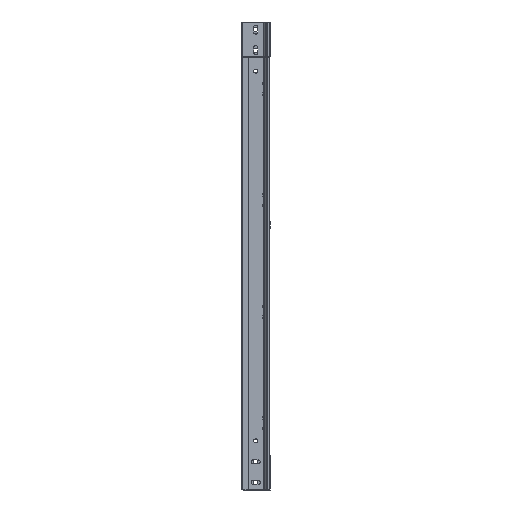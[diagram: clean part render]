
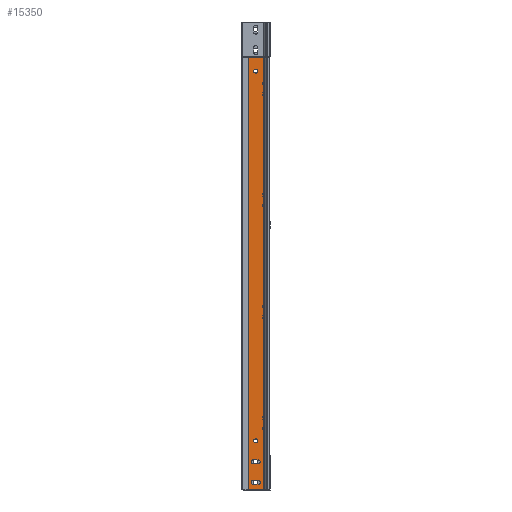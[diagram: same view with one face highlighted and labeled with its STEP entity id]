
A CAD part, left-side view. The second image highlights one B-rep face of the part: STEP entity #15350.
In plain terms, the highlighted planar face has unit normal (-1, 0, 0).
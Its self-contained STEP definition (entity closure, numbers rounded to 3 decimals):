
#150 = VERTEX_POINT ( 'NONE', #12616 ) ;
#570 = CARTESIAN_POINT ( 'NONE',  ( 0., 48.466, 970. ) ) ;
#755 = VERTEX_POINT ( 'NONE', #12154 ) ;
#817 = EDGE_CURVE ( 'NONE', #15494, #2097, #16025, .T. ) ;
#865 = FACE_BOUND ( 'NONE', #12500, .T. ) ;
#946 = ORIENTED_EDGE ( 'NONE', *, *, #16884, .F. ) ;
#978 = LINE ( 'NONE', #11442, #4942 ) ;
#1201 = DIRECTION ( 'NONE',  ( -1., 0., 0. ) ) ;
#1885 = ORIENTED_EDGE ( 'NONE', *, *, #8966, .T. ) ;
#1893 = ORIENTED_EDGE ( 'NONE', *, *, #8275, .F. ) ;
#1919 = AXIS2_PLACEMENT_3D ( 'NONE', #10100, #2630, #3828 ) ;
#2023 = CARTESIAN_POINT ( 'NONE',  ( 0., 30.3, 25.5 ) ) ;
#2097 = VERTEX_POINT ( 'NONE', #3073 ) ;
#2524 = LINE ( 'NONE', #15664, #5587 ) ;
#2630 = DIRECTION ( 'NONE',  ( -1., 0., 0. ) ) ;
#2643 = VECTOR ( 'NONE', #9492, 1000. ) ;
#2743 = VERTEX_POINT ( 'NONE', #9097 ) ;
#3057 = VERTEX_POINT ( 'NONE', #16976 ) ;
#3073 = CARTESIAN_POINT ( 'NONE',  ( 0., 35.8, 911.5 ) ) ;
#3116 = AXIS2_PLACEMENT_3D ( 'NONE', #11957, #4416, #13600 ) ;
#3278 = CIRCLE ( 'NONE', #3293, 4.5 ) ;
#3293 = AXIS2_PLACEMENT_3D ( 'NONE', #13301, #5402, #10638 ) ;
#3317 = AXIS2_PLACEMENT_3D ( 'NONE', #10745, #15982, #4227 ) ;
#3454 = EDGE_CURVE ( 'NONE', #2743, #3057, #10690, .T. ) ;
#3734 = DIRECTION ( 'NONE',  ( 0., 0., 1. ) ) ;
#3735 = CARTESIAN_POINT ( 'NONE',  ( 0., 35.8, 902.5 ) ) ;
#3828 = DIRECTION ( 'NONE',  ( 0., 0., -1. ) ) ;
#4227 = DIRECTION ( 'NONE',  ( 0., 0., 1. ) ) ;
#4240 = VERTEX_POINT ( 'NONE', #14229 ) ;
#4266 = LINE ( 'NONE', #5293, #2643 ) ;
#4358 = VERTEX_POINT ( 'NONE', #5660 ) ;
#4416 = DIRECTION ( 'NONE',  ( -1., 0., 0. ) ) ;
#4462 = LINE ( 'NONE', #3735, #6299 ) ;
#4919 = EDGE_CURVE ( 'NONE', #16381, #2743, #2524, .T. ) ;
#4940 = CARTESIAN_POINT ( 'NONE',  ( 0., 24.8, 957.5 ) ) ;
#4942 = VECTOR ( 'NONE', #5955, 1000. ) ;
#5145 = LINE ( 'NONE', #7565, #7666 ) ;
#5147 = DIRECTION ( 'NONE',  ( 0., 0., 1. ) ) ;
#5187 = DIRECTION ( 'NONE',  ( -1., 0., 0. ) ) ;
#5217 = CARTESIAN_POINT ( 'NONE',  ( 0., 35.8, 948.5 ) ) ;
#5293 = CARTESIAN_POINT ( 'NONE',  ( 0., 0.5, 970. ) ) ;
#5340 = DIRECTION ( 'NONE',  ( -1., 0., 0. ) ) ;
#5402 = DIRECTION ( 'NONE',  ( -1., 0., 0. ) ) ;
#5587 = VECTOR ( 'NONE', #16940, 1000. ) ;
#5660 = CARTESIAN_POINT ( 'NONE',  ( 0., 35.8, 902.5 ) ) ;
#5694 = VERTEX_POINT ( 'NONE', #2023 ) ;
#5794 = ORIENTED_EDGE ( 'NONE', *, *, #8902, .T. ) ;
#5812 = EDGE_CURVE ( 'NONE', #7970, #16381, #15818, .T. ) ;
#5929 = DIRECTION ( 'NONE',  ( -1., 0., 0. ) ) ;
#5955 = DIRECTION ( 'NONE',  ( 0., 1., 0. ) ) ;
#6032 = VECTOR ( 'NONE', #15232, 1000. ) ;
#6096 = PLANE ( 'NONE',  #10850 ) ;
#6226 = CIRCLE ( 'NONE', #13632, 4.5 ) ;
#6242 = ORIENTED_EDGE ( 'NONE', *, *, #817, .F. ) ;
#6299 = VECTOR ( 'NONE', #11626, 1000. ) ;
#6561 = CARTESIAN_POINT ( 'NONE',  ( 0., 30.3, 855.5 ) ) ;
#6638 = ORIENTED_EDGE ( 'NONE', *, *, #13534, .F. ) ;
#6688 = AXIS2_PLACEMENT_3D ( 'NONE', #9459, #13761, #14969 ) ;
#6700 = ORIENTED_EDGE ( 'NONE', *, *, #4919, .F. ) ;
#7387 = FACE_BOUND ( 'NONE', #12438, .T. ) ;
#7416 = CARTESIAN_POINT ( 'NONE',  ( 0., 48.466, 970. ) ) ;
#7503 = CIRCLE ( 'NONE', #3116, 4.5 ) ;
#7565 = CARTESIAN_POINT ( 'NONE',  ( 0., 0., 0. ) ) ;
#7666 = VECTOR ( 'NONE', #10210, 1000. ) ;
#7723 = CARTESIAN_POINT ( 'NONE',  ( 0., 24.8, 911.5 ) ) ;
#7970 = VERTEX_POINT ( 'NONE', #13491 ) ;
#8004 = DIRECTION ( 'NONE',  ( 0., 0., 1. ) ) ;
#8049 = LINE ( 'NONE', #5217, #8292 ) ;
#8243 = ORIENTED_EDGE ( 'NONE', *, *, #8473, .F. ) ;
#8259 = CARTESIAN_POINT ( 'NONE',  ( 0., 24.8, 902.5 ) ) ;
#8275 = EDGE_CURVE ( 'NONE', #150, #755, #5145, .T. ) ;
#8292 = VECTOR ( 'NONE', #11989, 1000. ) ;
#8385 = CARTESIAN_POINT ( 'NONE',  ( 0., 35.8, 911.5 ) ) ;
#8473 = EDGE_CURVE ( 'NONE', #2097, #4358, #3278, .T. ) ;
#8578 = EDGE_LOOP ( 'NONE', ( #1893, #11679, #1885, #5794 ) ) ;
#8607 = EDGE_CURVE ( 'NONE', #4358, #16974, #4462, .T. ) ;
#8902 = EDGE_CURVE ( 'NONE', #16292, #755, #12473, .T. ) ;
#8966 = EDGE_CURVE ( 'NONE', #12687, #16292, #978, .T. ) ;
#9097 = CARTESIAN_POINT ( 'NONE',  ( 0., 35.8, 957.5 ) ) ;
#9161 = EDGE_CURVE ( 'NONE', #16974, #15494, #15372, .T. ) ;
#9414 = EDGE_CURVE ( 'NONE', #4240, #16559, #10710, .T. ) ;
#9459 = CARTESIAN_POINT ( 'NONE',  ( 0., 30.3, 30. ) ) ;
#9492 = DIRECTION ( 'NONE',  ( 0., 0., -1. ) ) ;
#9556 = FACE_OUTER_BOUND ( 'NONE', #8578, .T. ) ;
#9740 = ORIENTED_EDGE ( 'NONE', *, *, #3454, .F. ) ;
#10043 = FACE_BOUND ( 'NONE', #13988, .T. ) ;
#10073 = VECTOR ( 'NONE', #14997, 1000. ) ;
#10100 = CARTESIAN_POINT ( 'NONE',  ( 0., 35.8, 953. ) ) ;
#10203 = ORIENTED_EDGE ( 'NONE', *, *, #10772, .F. ) ;
#10210 = DIRECTION ( 'NONE',  ( 0., 1., 0. ) ) ;
#10496 = CARTESIAN_POINT ( 'NONE',  ( 0., 30.3, 30. ) ) ;
#10638 = DIRECTION ( 'NONE',  ( 0., 0., -1. ) ) ;
#10690 = CIRCLE ( 'NONE', #1919, 4.5 ) ;
#10710 = CIRCLE ( 'NONE', #13174, 4.5 ) ;
#10743 = VERTEX_POINT ( 'NONE', #14742 ) ;
#10745 = CARTESIAN_POINT ( 'NONE',  ( 0., 24.8, 907. ) ) ;
#10772 = EDGE_CURVE ( 'NONE', #3057, #7970, #8049, .T. ) ;
#10850 = AXIS2_PLACEMENT_3D ( 'NONE', #11170, #5929, #15289 ) ;
#10943 = ORIENTED_EDGE ( 'NONE', *, *, #12784, .F. ) ;
#11170 = CARTESIAN_POINT ( 'NONE',  ( 0., 0., 970. ) ) ;
#11442 = CARTESIAN_POINT ( 'NONE',  ( 0., 0., 970. ) ) ;
#11626 = DIRECTION ( 'NONE',  ( 0., -1., 0. ) ) ;
#11679 = ORIENTED_EDGE ( 'NONE', *, *, #16110, .F. ) ;
#11954 = CARTESIAN_POINT ( 'NONE',  ( 0., 0.5, 970. ) ) ;
#11957 = CARTESIAN_POINT ( 'NONE',  ( 0., 30.3, 860. ) ) ;
#11989 = DIRECTION ( 'NONE',  ( 0., -1., 0. ) ) ;
#12154 = CARTESIAN_POINT ( 'NONE',  ( 0., 48.466, 0. ) ) ;
#12438 = EDGE_LOOP ( 'NONE', ( #946, #10943 ) ) ;
#12473 = LINE ( 'NONE', #7416, #6032 ) ;
#12500 = EDGE_LOOP ( 'NONE', ( #9740, #6700, #12933, #10203 ) ) ;
#12616 = CARTESIAN_POINT ( 'NONE',  ( 0., 0.5, 0. ) ) ;
#12687 = VERTEX_POINT ( 'NONE', #11954 ) ;
#12712 = CIRCLE ( 'NONE', #6688, 4.5 ) ;
#12784 = EDGE_CURVE ( 'NONE', #10743, #5694, #12712, .T. ) ;
#12933 = ORIENTED_EDGE ( 'NONE', *, *, #5812, .F. ) ;
#12983 = EDGE_LOOP ( 'NONE', ( #8243, #6242, #14059, #15803 ) ) ;
#13078 = AXIS2_PLACEMENT_3D ( 'NONE', #15495, #5187, #3734 ) ;
#13174 = AXIS2_PLACEMENT_3D ( 'NONE', #14238, #1201, #5147 ) ;
#13301 = CARTESIAN_POINT ( 'NONE',  ( 0., 35.8, 907. ) ) ;
#13491 = CARTESIAN_POINT ( 'NONE',  ( 0., 24.8, 948.5 ) ) ;
#13534 = EDGE_CURVE ( 'NONE', #16559, #4240, #7503, .T. ) ;
#13600 = DIRECTION ( 'NONE',  ( 0., 0., 1. ) ) ;
#13632 = AXIS2_PLACEMENT_3D ( 'NONE', #10496, #5340, #8004 ) ;
#13761 = DIRECTION ( 'NONE',  ( -1., 0., 0. ) ) ;
#13828 = FACE_BOUND ( 'NONE', #12983, .T. ) ;
#13988 = EDGE_LOOP ( 'NONE', ( #15320, #6638 ) ) ;
#14059 = ORIENTED_EDGE ( 'NONE', *, *, #9161, .F. ) ;
#14229 = CARTESIAN_POINT ( 'NONE',  ( 0., 30.3, 864.5 ) ) ;
#14238 = CARTESIAN_POINT ( 'NONE',  ( 0., 30.3, 860. ) ) ;
#14742 = CARTESIAN_POINT ( 'NONE',  ( 0., 30.3, 34.5 ) ) ;
#14969 = DIRECTION ( 'NONE',  ( 0., 0., 1. ) ) ;
#14997 = DIRECTION ( 'NONE',  ( 0., 1., 0. ) ) ;
#15232 = DIRECTION ( 'NONE',  ( 0., 0., -1. ) ) ;
#15289 = DIRECTION ( 'NONE',  ( 0., 0., 1. ) ) ;
#15320 = ORIENTED_EDGE ( 'NONE', *, *, #9414, .F. ) ;
#15350 = ADVANCED_FACE ( 'NONE', ( #7387, #10043, #13828, #865, #9556 ), #6096, .T. ) ;
#15372 = CIRCLE ( 'NONE', #3317, 4.5 ) ;
#15494 = VERTEX_POINT ( 'NONE', #7723 ) ;
#15495 = CARTESIAN_POINT ( 'NONE',  ( 0., 24.8, 953. ) ) ;
#15664 = CARTESIAN_POINT ( 'NONE',  ( 0., 35.8, 957.5 ) ) ;
#15803 = ORIENTED_EDGE ( 'NONE', *, *, #8607, .F. ) ;
#15818 = CIRCLE ( 'NONE', #13078, 4.5 ) ;
#15982 = DIRECTION ( 'NONE',  ( -1., 0., 0. ) ) ;
#16025 = LINE ( 'NONE', #8385, #10073 ) ;
#16110 = EDGE_CURVE ( 'NONE', #12687, #150, #4266, .T. ) ;
#16292 = VERTEX_POINT ( 'NONE', #570 ) ;
#16381 = VERTEX_POINT ( 'NONE', #4940 ) ;
#16559 = VERTEX_POINT ( 'NONE', #6561 ) ;
#16884 = EDGE_CURVE ( 'NONE', #5694, #10743, #6226, .T. ) ;
#16940 = DIRECTION ( 'NONE',  ( 0., 1., 0. ) ) ;
#16974 = VERTEX_POINT ( 'NONE', #8259 ) ;
#16976 = CARTESIAN_POINT ( 'NONE',  ( 0., 35.8, 948.5 ) ) ;
